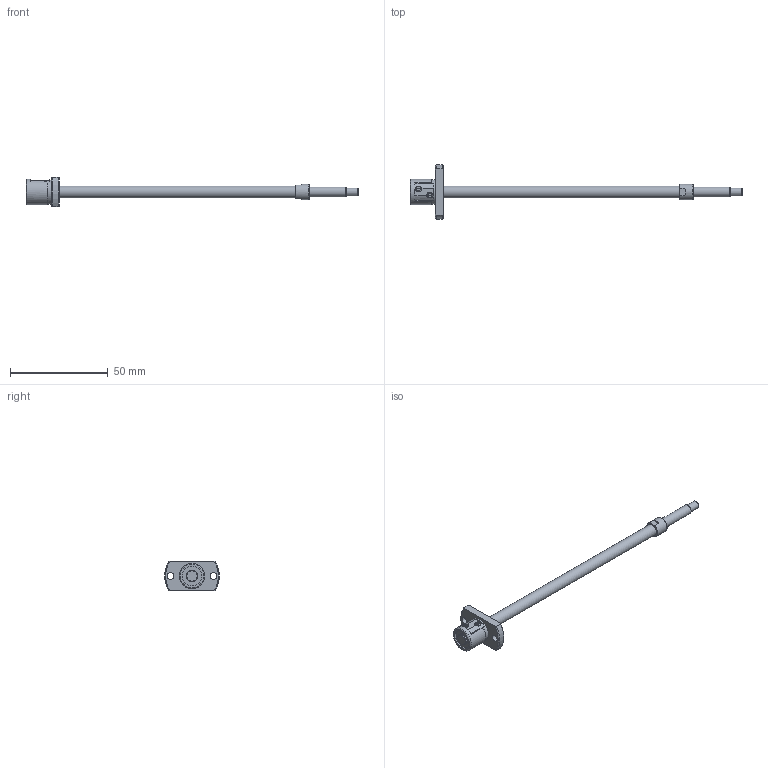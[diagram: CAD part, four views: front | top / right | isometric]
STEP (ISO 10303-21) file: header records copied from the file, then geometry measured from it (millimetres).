
FILE_DESCRIPTION( ( 'STEP AP203' ), '1' );
FILE_NAME( 'e:/temp/worker_98/temp/exporttempdir_5688_417_CDwH3/format_0/SG0601-135R170C3A1X(0).stp', '2021-10-19T00:28:47', ( 'License CC BY-ND 4.0' ), ( 'CADENAS' ), ' ', 'PARTsolutions', ' ' );
FILE_SCHEMA( ( 'CONFIG_CONTROL_DESIGN' ) );
Length unit declared in the file: millimetre
Products named in the file (3): SG0601-135R170C3A1X(0); _SG0601-135R170C3A_shaft; _SG0601_nut
Assembly tree (2 placements, depth 2):
  SG0601-135R170C3A1X(0)
    _SG0601-135R170C3A_shaft
    _SG0601_nut
Bounding box: 170 x 27.91 x 15 mm (x, y, z)
Volume: 7289.4 mm3; surface area: 5226.3 mm2
Topology: 2 solids, 2 shells, 71 faces, 174 edges, 115 vertices
Faces by surface type: plane 34, cylinder 23, cone 13, torus 1
Full cylindrical faces by diameter (mm): 3.4 x2, 4 x1, 5 x1, 6 x2, 8 x1, 10 x2, 12.6 x1, 13 x1
Entity records: 2074 total; most frequent: CARTESIAN_POINT 396, DIRECTION 340, ORIENTED_EDGE 286, EDGE_CURVE 143, AXIS2_PLACEMENT_3D 141, EDGE_LOOP 106, VERTEX_POINT 105, FACE_OUTER_BOUND 83
